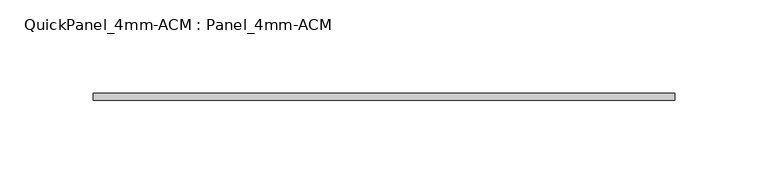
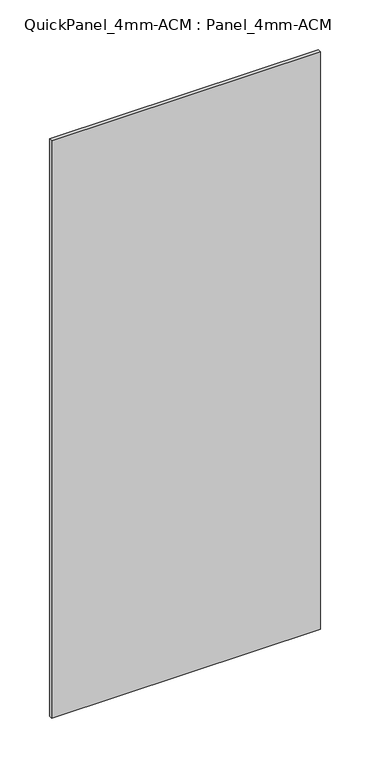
"""IFC4 building model written with IfcOpenShell, lengths in millimetres: plate geometry, QuickPanel_4mm-ACM : Panel_4mm-ACM."""

from ifc_helpers import new_model, si_unit, origin, origin_with_axes, place, context, project, spatial, polyline, outline, extrude, source, transform, mapped, element, save


def quickpanel_4mm_acm_panel_4mm_acm_c03f723a(model_context):
    return source(origin(), model_context, "Body", "SweptSolid", [
        extrude(outline(polyline([(-155.9412714, -6.096), (155.9412714, -6.096), (155.9412714, -9.906), (-155.9412714, -9.906), (-155.9412714, -6.096)])), origin_with_axes(), (0.0, 0.0, 1.0), 708.2898236),
    ])


if __name__ == "__main__":
    model = new_model("IFC4")
    model_context = context("Model", 3, world=origin())
    ifc_project = project(units=[si_unit("LENGTHUNIT", "METRE", prefix="MILLI")], contexts=[model_context])
    site = spatial("IfcSite", under=ifc_project)
    building = spatial("IfcBuilding", under=site)
    placement = place(None, origin())
    quickpanel_4mm_acm_panel_4mm_acm_shape = quickpanel_4mm_acm_panel_4mm_acm_c03f723a(model_context)
    element("IfcPlate", 1, ObjectType="QuickPanel_4mm-ACM : Panel_4mm-ACM", at=placement, inside=building, context=model_context, shape_type="MappedRepresentation", body=[
        mapped(quickpanel_4mm_acm_panel_4mm_acm_shape, transform((0.0, 0.0, 0.0), x_axis=(1.0, 0.0, 0.0), y_axis=(0.0, 1.0, 0.0), z_axis=(0.0, 0.0, 1.0))),
    ])
    save(model, "model.ifc")
